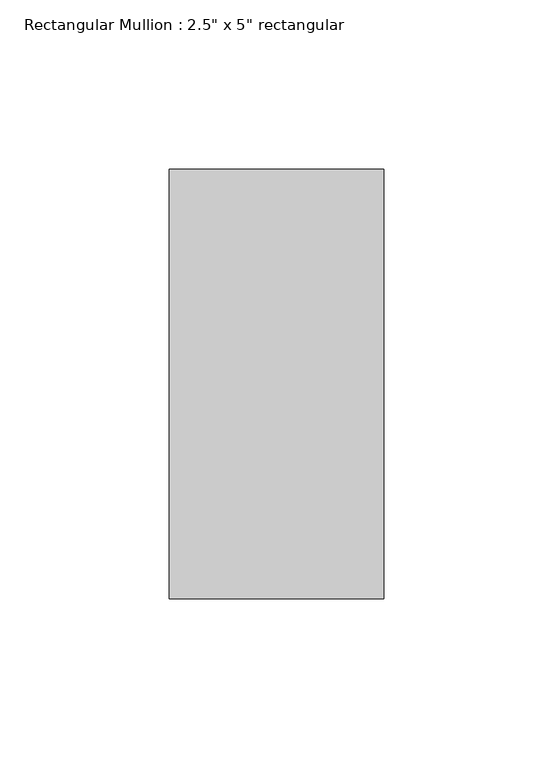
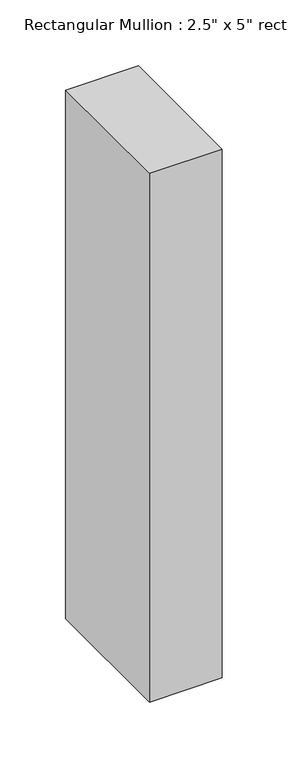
"""IFC4 building model written with IfcOpenShell, lengths in millimetres: member geometry."""

from ifc_helpers import new_model, si_unit, frame, origin, place, context, project, spatial, polyline, outline, extrude, source, transform, mapped, element, save


def member_b9f3750b(model_context):
    return source(origin(), model_context, "Body", "SweptSolid", [
        extrude(outline(polyline([(0.0, 63.5), (0.0, -63.5), (-63.5, -63.5), (-63.5, 63.5), (0.0, 63.5)])), frame((0.0, 0.0, -488.95), z_axis=(0.0, 0.0, 1.0), x_axis=(1.0, 0.0, 0.0)), (0.0, 0.0, 1.0), 488.95),
    ])


if __name__ == "__main__":
    model = new_model("IFC4")
    model_context = context("Model", 3, world=origin())
    ifc_project = project(units=[si_unit("LENGTHUNIT", "METRE", prefix="MILLI")], contexts=[model_context])
    site = spatial("IfcSite", under=ifc_project)
    building = spatial("IfcBuilding", under=site)
    placement = place(None, origin())
    member_shape = member_b9f3750b(model_context)
    element("IfcMember", 1, ObjectType="Rectangular Mullion : 2.5\" x 5\" rectangular", at=placement, inside=building, context=model_context, shape_type="MappedRepresentation", body=[
        mapped(member_shape, transform((0.0, 0.0, 0.0), x_axis=(1.0, 0.0, 0.0), y_axis=(0.0, 1.0, 0.0), z_axis=(0.0, 0.0, 1.0))),
    ])
    save(model, "model.ifc")
